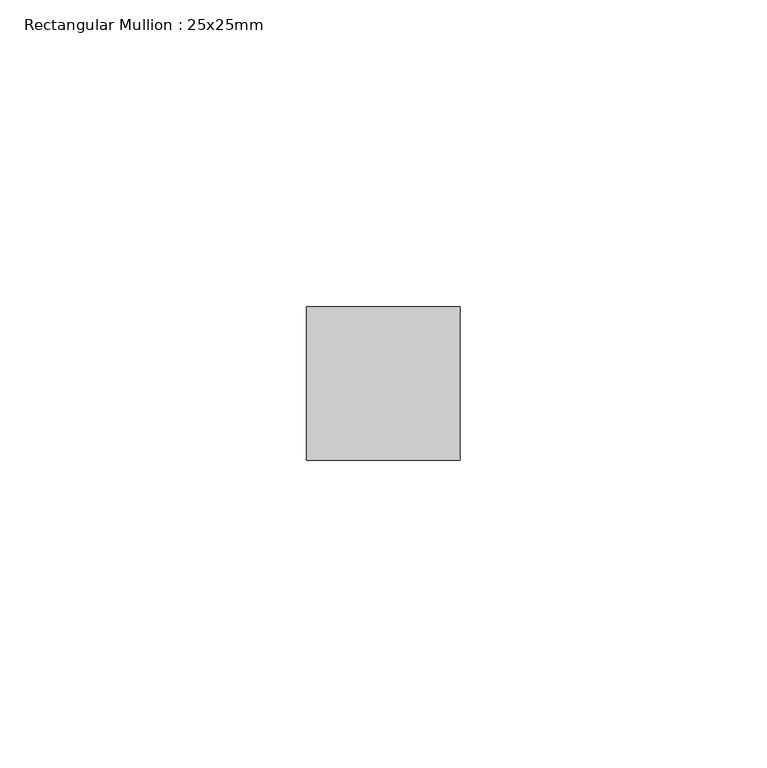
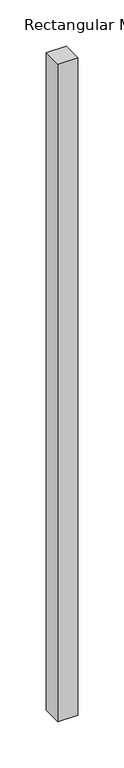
"""IFC4 building model written with IfcOpenShell, lengths in millimetres: member geometry, Rectangular Mullion : 25x25mm."""

from ifc_helpers import new_model, si_unit, frame, origin, place, context, project, spatial, polyline, outline, extrude, source, transform, mapped, element, save


def rectangular_mullion_25x25mm_75dba7a0(model_context):
    return source(origin(), model_context, "Body", "SweptSolid", [
        extrude(outline(polyline([(12.5, 24.5), (12.5, -0.5), (-12.5, -0.5), (-12.5, 24.5), (12.5, 24.5)])), frame((0.0, 0.0, -869.2603312), z_axis=(0.0, 0.0, 1.0), x_axis=(1.0, 0.0, 0.0)), (0.0, 0.0, 1.0), 869.2603312),
    ])


if __name__ == "__main__":
    model = new_model("IFC4")
    model_context = context("Model", 3, world=origin())
    ifc_project = project(units=[si_unit("LENGTHUNIT", "METRE", prefix="MILLI")], contexts=[model_context])
    site = spatial("IfcSite", under=ifc_project)
    building = spatial("IfcBuilding", under=site)
    placement = place(None, origin())
    rectangular_mullion_25x25mm_shape = rectangular_mullion_25x25mm_75dba7a0(model_context)
    element("IfcMember", 1, ObjectType="Rectangular Mullion : 25x25mm", at=placement, inside=building, context=model_context, shape_type="MappedRepresentation", body=[
        mapped(rectangular_mullion_25x25mm_shape, transform((0.0, 0.0, 0.0), x_axis=(1.0, 0.0, 0.0), y_axis=(0.0, 1.0, 0.0), z_axis=(0.0, 0.0, 1.0))),
    ])
    save(model, "model.ifc")
